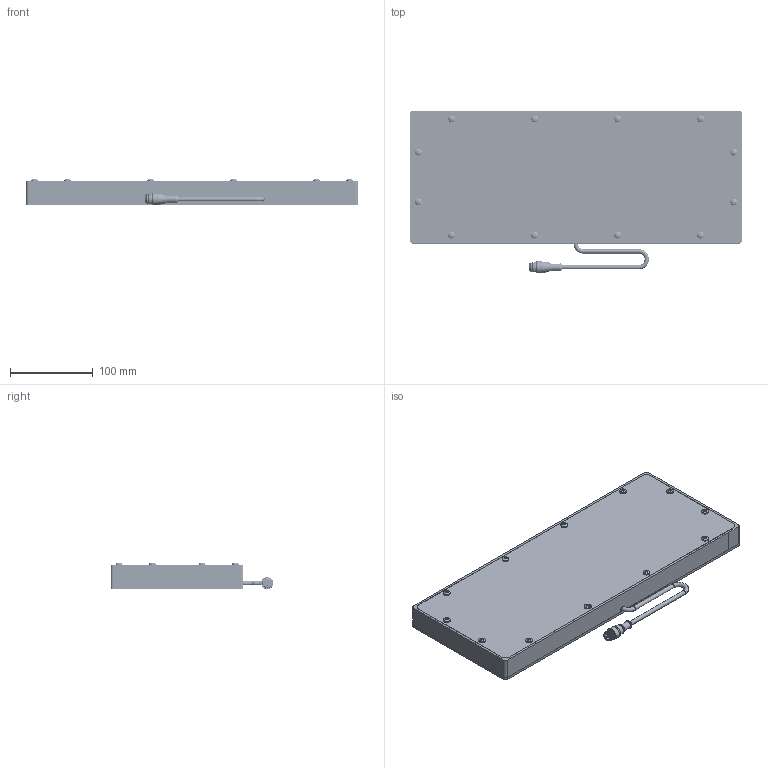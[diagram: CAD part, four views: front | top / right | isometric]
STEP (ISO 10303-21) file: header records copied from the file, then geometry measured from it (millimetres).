
FILE_DESCRIPTION (( 'STEP AP214' ), '1' );
FILE_NAME ('BL120360.STEP', '2026-06-17T02:00:03', ( '' ), ( '' ), 'SwSTEP 2.0', 'SolidWorks 2025', '' );
FILE_SCHEMA (( 'AUTOMOTIVE_DESIGN' ));
Length unit declared in the file: millimetre
Products named in the file (12): MC Pigtail 24_90 then 180 short lead out; 8-32 x 0.5 FHCS (92210A194)_92210A194; SC Pigtail Complete 18_5pin; M12 Connector 4,5 and 8 pin_RS4.5T; WD-Xmm x Xmm_120x360; 120 to 480 x 25mm rails_360mm no CG; BL120360; 120 to 480 x 25mm rails_360mm; Backplate Xmm x Xmm_120x360; 8-32 x .375 Nylon Screw_.375" 94611A192; Hex Standoff .75 x 8-32; 120 to 480 x 25mm rails_120mm no CG
Assembly tree (45 placements, depth 3):
  BL120360
    Backplate Xmm x Xmm_120x360
    120 to 480 x 25mm rails_360mm
    120 to 480 x 25mm rails_120mm no CG  x2
    120 to 480 x 25mm rails_360mm no CG
    WD-Xmm x Xmm_120x360
    SC Pigtail Complete 18_5pin
      MC Pigtail 24_90 then 180 short lead out
      M12 Connector 4,5 and 8 pin_RS4.5T
    Hex Standoff .75 x 8-32  x12
    8-32 x 0.5 FHCS (92210A194)_92210A194  x12
    8-32 x .375 Nylon Screw_.375" 94611A192  x12
Bounding box: 400 x 195.91 x 31.93 mm (x, y, z)
Volume: 871622 mm3; surface area: 388772.2 mm2
Topology: 44 solids, 44 shells, 1280 faces, 3131 edges, 1989 vertices
Faces by surface type: plane 490, bspline 312, cylinder 225, cone 211, torus 25, sphere 17
Full cylindrical faces by diameter (mm): 0.762 x5, 1 x1, 3.454 x12, 4.2 x4, 4.496 x36, 5.207 x3, 6.35 x4, 6.858 x12, 8.128 x12, 8.382 x1, 8.636 x1, 9.119 x12, 10.16 x1, 10.541 x1, 11.938 x1, 13.716 x2, 14.732 x1
Entity records: 14534 total; most frequent: CARTESIAN_POINT 5528, DIRECTION 1655, ORIENTED_EDGE 1376, EDGE_CURVE 688, AXIS2_PLACEMENT_3D 685, EDGE_LOOP 571, VERTEX_POINT 513, FACE_OUTER_BOUND 425
